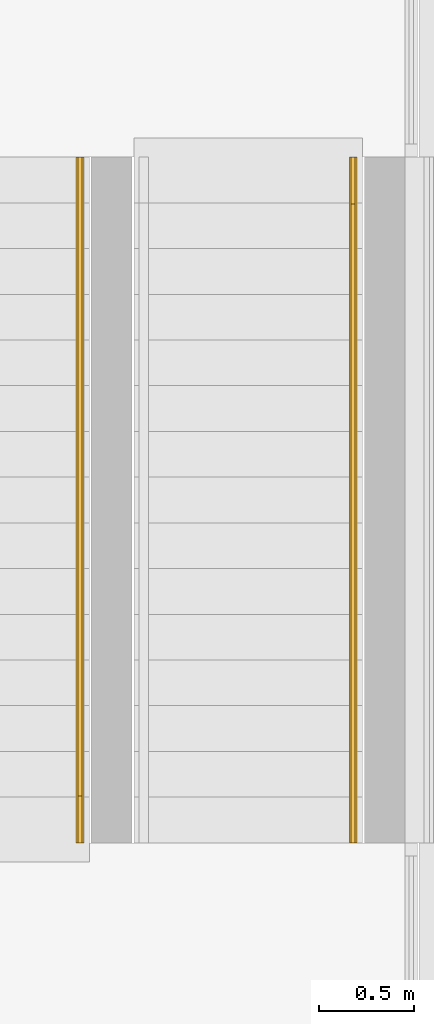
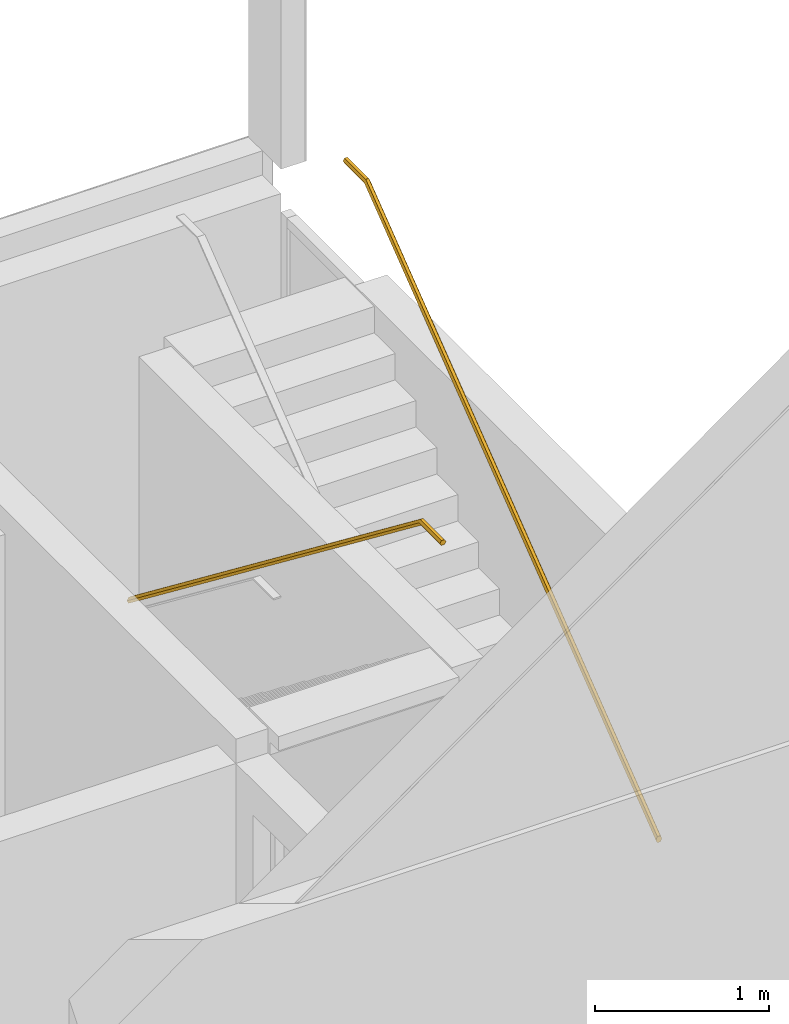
# One storey, part 18 of 22: 2 railings, 2 elements without a shape of their own.
"""IFC2X3 building model written with IfcOpenShell, lengths in millimetres."""

from ifc_helpers import new_model, entity, si_unit, converted_unit, derived_unit, money_unit, direction, frame, origin_with_axes, place, context, subcontext, project, spatial, faceted_brep, material, type_object, element, aggregate, save


model = new_model("IFC2X3")

# Units and contexts
model_context = context("Model", 3, precision=0.01, world=origin_with_axes(), true_north=direction((0.0, 1.0)))
body_context = subcontext(model_context, "Body", "Model", "MODEL_VIEW")
ifc_project = project(units=[si_unit("LENGTHUNIT", "METRE", prefix="MILLI"), si_unit("AREAUNIT", "SQUARE_METRE"), si_unit("VOLUMEUNIT", "CUBIC_METRE"), converted_unit("PLANEANGLEUNIT", "DEGREE", entity("IfcPlaneAngleMeasure", 0.0174532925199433), si_unit("PLANEANGLEUNIT", "RADIAN"), dimensions=[0, 0, 0, 0, 0, 0, 0]), money_unit("EUR"), converted_unit("TIMEUNIT", "Year", entity("IfcTimeMeasure", 31557600.0), si_unit("TIMEUNIT", "SECOND"), dimensions=[0, 0, 1, 0, 0, 0, 0]), si_unit("MASSUNIT", "GRAM", prefix="KILO"), si_unit("THERMODYNAMICTEMPERATUREUNIT", "DEGREE_CELSIUS"), si_unit("LUMINOUSINTENSITYUNIT", "LUMEN"), si_unit("ENERGYUNIT", "JOULE", prefix="MEGA"), derived_unit("THERMALCONDUCTANCEUNIT", [(si_unit("POWERUNIT", "WATT"), 1), (si_unit("LENGTHUNIT", "METRE"), -1), (si_unit("THERMODYNAMICTEMPERATUREUNIT", "KELVIN"), -1)]), derived_unit("SPECIFICHEATCAPACITYUNIT", [(si_unit("ENERGYUNIT", "JOULE"), 1), (si_unit("MASSUNIT", "GRAM", prefix="KILO"), -1), (si_unit("THERMODYNAMICTEMPERATUREUNIT", "KELVIN"), -1)]), derived_unit("MASSDENSITYUNIT", [(si_unit("MASSUNIT", "GRAM", prefix="KILO"), 1), (si_unit("VOLUMEUNIT", "CUBIC_METRE"), -1)])], contexts=[model_context])

# Site, building, storey
site_placement = place(None, origin_with_axes())
site = spatial("IfcSite", under=ifc_project, at=site_placement, Name="Site", CompositionType="ELEMENT")
building_placement = place(site_placement, origin_with_axes())
building = spatial("IfcBuilding", under=site, at=building_placement, Name="Naam gebouw", CompositionType="ELEMENT")
storey_placement = place(building_placement, frame((0.0, 0.0, 8690.0), z_axis=(0.0, 0.0, 1.0), x_axis=(1.0, 0.0, 0.0)))
storey = spatial("IfcBuildingStorey", under=building, at=storey_placement, Name="2e verdieping V", CompositionType="ELEMENT", Elevation=8690.0)

# Stair, railing
stair_1_placement = place(storey_placement, frame((0.0, 0.0, -8690.0), z_axis=(0.0, 0.0, 1.0), x_axis=(1.0, 0.0, 0.0)))
stair_1 = element("IfcStair", 1, at=stair_1_placement, inside=storey, Name="Precast Stair:Stair", ObjectType="Precast Stair:24_trap - prefab", ShapeType="NOTDEFINED")
ifc_material = material(Name="baluster_staal")
railing_type = type_object("IfcRailingType", Name="Railing:44_3B_leuning - staal Ø40", PredefinedType="NOTDEFINED")
railing_1_placement = place(stair_1_placement, frame((34894.59527228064, 34145.91242623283, 9747.836143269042), z_axis=(0.0, 0.0, 1.0), x_axis=(0.0, 1.0, 0.0)))
railing_1 = element("IfcRailing", 2, at=railing_1_placement, type_object=railing_type, material=ifc_material, Name="Railing:44_3B_leuning - staal Ø40", PredefinedType="NOTDEFINED", context=body_context, shape_type="Brep", body=[
    faceted_brep([(3600.0, 1.59527223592, 26.83052339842), (3600.0, 4.095272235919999, 21.36693125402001), (3600.0, 6.595272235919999, 15.90333910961), (3600.0, 9.095272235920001, 10.43974696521), (3600.0, 11.59527223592, 4.976154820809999), (3600.0, 16.59527223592, 4.976154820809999), (3600.0, 21.59527223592, 4.976154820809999), (3600.0, 26.59527223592, 4.976154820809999), (3600.0, 31.59527223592, 4.976154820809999), (3600.0, 34.09527223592, 10.43974696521), (3600.0, 36.59527223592, 15.90333910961), (3600.0, 39.09527223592, 21.36693125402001), (3600.0, 41.59527223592, 26.83052339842), (3600.0, 39.63400118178, 31.11675744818), (3600.0, 37.67273012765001, 35.40299149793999), (3600.0, 34.63400118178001, 42.04394173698), (3600.0, 31.59527223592, 48.68489197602), (3600.0, 26.59527223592, 48.68489197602), (3600.0, 21.59527223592, 48.68489197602), (3600.0, 16.59527223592, 48.68489197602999), (3600.0, 11.59527223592, 48.68489197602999), (3600.0, 9.095272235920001, 43.22129983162), (3600.0, 6.595272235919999, 37.75770768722), (3600.0, 3.55654329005, 31.11675744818), (240.0, 1.59527223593, 2612.16385673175), (238.84667540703, 3.5525869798, 2608.77368814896), (238.72210158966, 3.76400202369, 2608.40750655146), (237.69335081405, 5.509901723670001, 2605.38351956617), (237.4442031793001, 5.932731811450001, 2604.65115637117), (235.9004844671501, 8.552586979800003, 2600.11343411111), (235.77591064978, 8.764002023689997, 2599.74725251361), (234.10761812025, 11.59527223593, 2594.84334865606), (234.10761812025, 26.59527223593, 2594.84334865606), (234.10761812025, 31.59527223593, 2594.84334865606), (234.10761812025, 16.59527223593, 2594.84334865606), (234.10761812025, 21.59527223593, 2594.84334865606), (235.58071359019, 34.09527223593, 2599.17347567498), (237.05380906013, 36.59527223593, 2603.5036026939), (238.72210161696, 39.42654249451, 2608.40750663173), (238.84667540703, 39.63795749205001, 2608.77368814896), (240.0, 41.59527223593, 2612.16385673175), (241.47309546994, 39.09527223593, 2616.49398375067), (242.94619093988, 36.59527223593, 2620.82411076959), (244.4192864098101, 34.09527223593, 2625.15423778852), (245.89238187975, 31.59527223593, 2629.48436480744), (245.89238187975, 26.59527223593, 2629.48436480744), (245.89238187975, 21.59527223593, 2629.48436480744), (245.89238187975, 16.59527223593, 2629.48436480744), (245.89238187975, 11.59527223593, 2629.48436480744), (244.4192864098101, 9.095272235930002, 2625.15423778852), (242.94619093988, 6.59527223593, 2620.82411076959), (241.47309546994, 4.09527223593, 2616.49398375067), (0.0, 6.59527223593, 2603.5036026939), (0.0, 9.095272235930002, 2599.17347567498), (0.0, 11.59527223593, 2594.84334865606), (0.0, 1.59527223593, 2612.16385673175), (0.0, 4.09527223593, 2607.83372971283), (0.0, 16.59527223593, 2594.84334865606), (0.0, 21.59527223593, 2594.84334865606), (0.0, 26.59527223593, 2594.84334865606), (0.0, 31.59527223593, 2594.84334865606), (0.0, 34.09527223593, 2599.17347567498), (0.0, 36.59527223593, 2603.5036026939), (0.0, 39.09527223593, 2607.83372971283), (0.0, 41.59527223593, 2612.16385673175), (0.0, 39.48625981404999, 2615.81677340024), (0.0, 37.37724739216, 2619.46969006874), (0.0, 34.48625981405, 2624.47702743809), (0.0, 31.59527223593, 2629.48436480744), (0.0, 26.59527223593, 2629.48436480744), (0.0, 21.59527223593, 2629.48436480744), (0.0, 16.59527223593, 2629.48436480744), (0.0, 11.59527223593, 2629.48436480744), (0.0, 9.095272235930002, 2625.15423778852), (0.0, 6.59527223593, 2620.82411076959), (0.0, 3.704284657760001, 2615.81677340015)], [[[0, 1, 2, 3, 4, 5, 6, 7, 8, 9, 10, 11, 12, 13, 14, 15, 16, 17, 18, 19, 20, 21, 22, 23]], [[3, 2, 1, 0, 24, 25, 26, 27, 28, 29, 30, 31, 4]], [[32, 33, 8, 7, 6, 5, 4, 31, 34, 35]], [[11, 10, 9, 8, 33, 36, 37, 38, 39, 40, 12]], [[16, 15, 14, 13, 12, 40, 41, 42, 43, 44]], [[18, 17, 16, 44, 45, 46, 47, 48, 20, 19]], [[22, 21, 20, 48, 49, 50, 51, 24, 0, 23]], [[52, 53, 54, 31, 30, 29, 28, 27, 26, 25, 24, 55, 56]], [[35, 34, 31, 54, 57, 58, 59, 60, 33, 32]], [[61, 62, 63, 64, 40, 39, 38, 37, 36, 33, 60]], [[42, 41, 40, 64, 65, 66, 67, 68, 44, 43]], [[46, 45, 44, 68, 69, 70, 71, 72, 48, 47]], [[73, 74, 75, 55, 24, 51, 50, 49, 48, 72]], [[63, 62, 61, 60, 59, 58, 57, 54, 53, 52, 56, 55, 75, 74, 73, 72, 71, 70, 69, 68, 67, 66, 65, 64]]]),
])
aggregate(stair_1, [railing_1])

stair_2_placement = place(storey_placement, frame((0.0, 0.0, -8690.0), z_axis=(0.0, 0.0, 1.0), x_axis=(1.0, 0.0, 0.0)))
stair_2 = element("IfcStair", 3, at=stair_2_placement, inside=storey, Name="Precast Stair:Stair", ObjectType="Precast Stair:24_trap - prefab", ShapeType="NOTDEFINED")
railing_2_placement = place(stair_2_placement, frame((36328.59527225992, 34145.91242629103, 9747.836143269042), z_axis=(0.0, 0.0, 1.0), x_axis=(0.0, 1.0, 0.0)))
railing_2 = element("IfcRailing", 4, at=railing_2_placement, type_object=railing_type, material=ifc_material, Name="Railing:44_3B_leuning - staal Ø40", PredefinedType="NOTDEFINED", context=body_context, shape_type="Brep", body=[
    faceted_brep([(0.0, 41.59527223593, 26.83052339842), (0.0, 39.09527223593, 21.36693125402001), (0.0, 36.59527223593, 15.90333910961), (0.0, 34.09527223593, 10.43974696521), (0.0, 31.59527223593, 4.976154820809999), (0.0, 26.59527223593, 4.976154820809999), (0.0, 21.59527223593, 4.976154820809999), (0.0, 16.59527223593, 4.976154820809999), (0.0, 11.59527223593, 4.976154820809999), (0.0, 9.095272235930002, 10.43974696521), (0.0, 6.59527223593, 15.90333910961), (0.0, 4.09527223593, 21.36693125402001), (0.0, 1.59527223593, 26.83052339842), (0.0, 3.556543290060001, 31.11675744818), (0.0, 5.517814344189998, 35.40299149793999), (0.0, 8.556543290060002, 42.04394173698), (0.0, 11.59527223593, 48.68489197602), (0.0, 16.59527223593, 48.68489197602), (0.0, 21.59527223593, 48.68489197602), (0.0, 26.59527223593, 48.68489197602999), (0.0, 31.59527223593, 48.68489197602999), (0.0, 34.09527223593, 43.22129983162), (0.0, 36.59527223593, 37.75770768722), (0.0, 39.6340011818, 31.11675744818), (3360.0, 41.59527223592, 2612.16385673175), (3361.15332459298, 39.63795749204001, 2608.77368814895), (3361.27789838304, 39.4265424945, 2608.40750663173), (3362.30664918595, 37.68064274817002, 2605.38351956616), (3362.55579676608, 37.25781275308, 2604.6511565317), (3364.09951553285, 34.63795749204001, 2600.11343411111), (3364.22408932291, 34.4265424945, 2599.74725259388), (3365.89238187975, 31.59527223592, 2594.84334865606), (3365.89238187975, 16.59527223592, 2594.84334865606), (3365.89238187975, 11.59527223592, 2594.84334865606), (3365.89238187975, 26.59527223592, 2594.84334865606), (3365.89238187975, 21.59527223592, 2594.84334865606), (3364.41928640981, 9.095272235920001, 2599.17347567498), (3362.94619093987, 6.595272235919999, 2603.50360269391), (3361.27789838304, 3.76400197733, 2608.40750663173), (3361.15332459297, 3.55258697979, 2608.77368814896), (3360.0, 1.59527223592, 2612.16385673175), (3358.52690453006, 4.095272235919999, 2616.49398375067), (3357.05380906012, 6.595272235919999, 2620.82411076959), (3355.58071359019, 9.095272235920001, 2625.15423778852), (3354.10761812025, 11.59527223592, 2629.48436480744), (3354.10761812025, 16.59527223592, 2629.48436480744), (3354.10761812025, 21.59527223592, 2629.48436480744), (3354.10761812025, 26.59527223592, 2629.48436480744), (3354.10761812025, 31.59527223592, 2629.48436480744), (3355.58071359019, 34.09527223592, 2625.15423778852), (3357.05380906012, 36.59527223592, 2620.8241107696), (3358.52690453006, 39.09527223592, 2616.49398375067), (3600.0, 36.59527223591, 2603.50360269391), (3600.0, 34.09527223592, 2599.17347567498), (3600.0, 31.59527223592, 2594.84334865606), (3600.0, 41.59527223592, 2612.16385673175), (3600.0, 39.09527223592, 2607.83372971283), (3600.0, 26.59527223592, 2594.84334865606), (3600.0, 21.59527223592, 2594.84334865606), (3600.0, 16.59527223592, 2594.84334865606), (3600.0, 11.59527223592, 2594.84334865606), (3600.0, 1.59527223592, 2612.16385673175), (3600.0, 9.095272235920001, 2599.17347567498), (3600.0, 6.595272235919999, 2603.50360269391), (3600.0, 4.095272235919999, 2607.83372971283), (3600.0, 3.704284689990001, 2615.81677345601), (3600.0, 5.81329714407, 2619.46969018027), (3600.0, 8.704284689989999, 2624.47702749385), (3600.0, 11.59527223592, 2629.48436480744), (3600.0, 26.59527223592, 2629.48436480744), (3600.0, 31.59527223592, 2629.48436480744), (3600.0, 16.59527223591, 2629.48436480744), (3600.0, 21.59527223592, 2629.48436480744), (3600.0, 39.48625981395, 2615.81677340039), (3600.0, 34.09527223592, 2625.15423778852), (3600.0, 36.59527223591, 2620.82411076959)], [[[0, 1, 2, 3, 4, 5, 6, 7, 8, 9, 10, 11, 12, 13, 14, 15, 16, 17, 18, 19, 20, 21, 22, 23]], [[3, 2, 1, 0, 24, 25, 26, 27, 28, 29, 30, 31, 4]], [[32, 33, 8, 7, 6, 5, 4, 31, 34, 35]], [[11, 10, 9, 8, 33, 36, 37, 38, 39, 40, 12]], [[16, 15, 14, 13, 12, 40, 41, 42, 43, 44]], [[18, 17, 16, 44, 45, 46, 47, 48, 20, 19]], [[22, 21, 20, 48, 49, 50, 51, 24, 0, 23]], [[52, 53, 54, 31, 30, 29, 28, 27, 26, 25, 24, 55, 56]], [[35, 34, 31, 54, 57, 58, 59, 60, 33, 32]], [[61, 40, 39, 38, 37, 36, 33, 60, 62, 63, 64]], [[42, 41, 40, 61, 65, 66, 67, 68, 44, 43]], [[69, 70, 48, 47, 46, 45, 44, 68, 71, 72]], [[73, 55, 24, 51, 50, 49, 48, 70, 74, 75]], [[64, 63, 62, 60, 59, 58, 57, 54, 53, 52, 56, 55, 73, 75, 74, 70, 69, 72, 71, 68, 67, 66, 65, 61]]]),
])
aggregate(stair_2, [railing_2])

save(model, "model.ifc")
